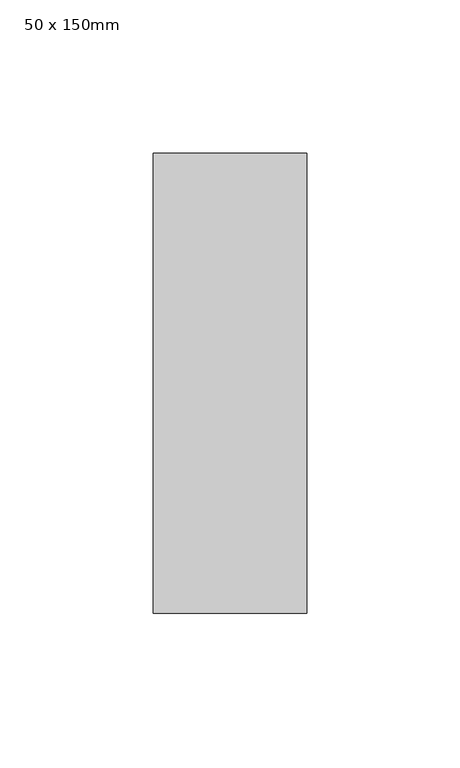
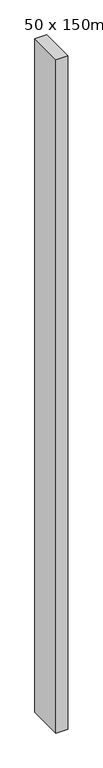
"""IFC4 building model written with IfcOpenShell, lengths in millimetres: member geometry, Прямоугольный импост : 50 x 150mm."""

from ifc_helpers import new_model, si_unit, frame, origin, place, context, project, spatial, polyline, outline, extrude, source, transform, mapped, element, save


def member_50_x_150mm_f6dd28bf(model_context):
    return source(origin(), model_context, "Body", "SweptSolid", [
        extrude(outline(polyline([(0.0, 75.0), (0.0, -75.0), (-50.0, -75.0), (-50.0, 75.0), (0.0, 75.0)])), frame((0.0, 0.0, -2950.0), z_axis=(0.0, 0.0, 1.0), x_axis=(1.0, 0.0, 0.0)), (0.0, 0.0, 1.0), 2950.0),
    ])


if __name__ == "__main__":
    model = new_model("IFC4")
    model_context = context("Model", 3, world=origin())
    ifc_project = project(units=[si_unit("LENGTHUNIT", "METRE", prefix="MILLI")], contexts=[model_context])
    site = spatial("IfcSite", under=ifc_project)
    building = spatial("IfcBuilding", under=site)
    placement = place(None, origin())
    member_50_x_150mm_shape = member_50_x_150mm_f6dd28bf(model_context)
    element("IfcMember", 1, ObjectType="Прямоугольный импост : 50 x 150mm", at=placement, inside=building, context=model_context, shape_type="MappedRepresentation", body=[
        mapped(member_50_x_150mm_shape, transform((0.0, 0.0, 0.0), x_axis=(1.0, 0.0, 0.0), y_axis=(0.0, 1.0, 0.0), z_axis=(0.0, 0.0, 1.0))),
    ])
    save(model, "model.ifc")
